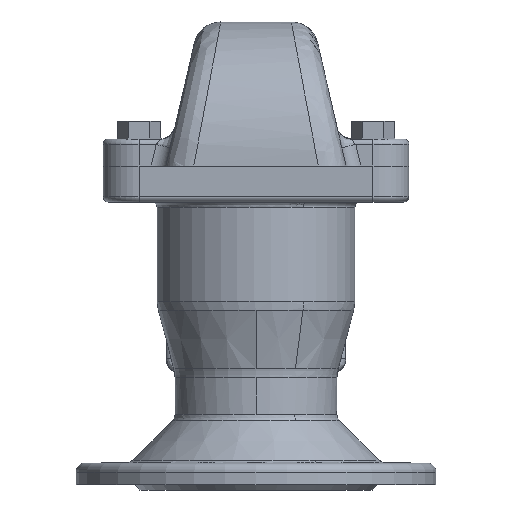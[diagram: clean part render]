
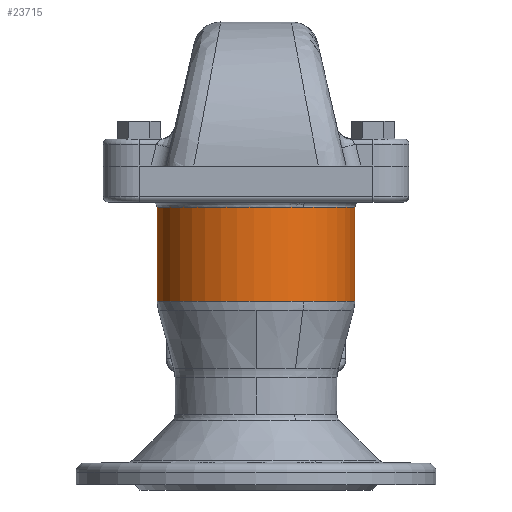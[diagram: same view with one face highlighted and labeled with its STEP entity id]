
A CAD part, front view. The second image highlights one B-rep face of the part: STEP entity #23715.
In plain terms, the highlighted cylindrical face has radius 55 mm (diameter 110 mm), a partial arc.
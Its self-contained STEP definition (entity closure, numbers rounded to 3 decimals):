
#287 = CARTESIAN_POINT ( 'NONE',  ( 0., 0., 157. ) ) ;
#398 = EDGE_CURVE ( 'NONE', #20257, #24072, #30049, .T. ) ;
#588 = EDGE_CURVE ( 'NONE', #15852, #20257, #28540, .T. ) ;
#2642 = DIRECTION ( 'NONE',  ( 1., 0., 0. ) ) ;
#3359 = EDGE_CURVE ( 'NONE', #24072, #25827, #22617, .T. ) ;
#4295 = ORIENTED_EDGE ( 'NONE', *, *, #3359, .T. ) ;
#5228 = AXIS2_PLACEMENT_3D ( 'NONE', #20094, #6010, #22453 ) ;
#6010 = DIRECTION ( 'NONE',  ( 0., 0., 1. ) ) ;
#6150 = EDGE_CURVE ( 'NONE', #15340, #15162, #13970, .T. ) ;
#6205 = ORIENTED_EDGE ( 'NONE', *, *, #588, .T. ) ;
#6275 = CARTESIAN_POINT ( 'NONE',  ( 26.368, -48.267, 104.954 ) ) ;
#6332 = EDGE_CURVE ( 'NONE', #15162, #25827, #25023, .T. ) ;
#6626 = EDGE_CURVE ( 'NONE', #15852, #15340, #15821, .T. ) ;
#6634 = ORIENTED_EDGE ( 'NONE', *, *, #398, .T. ) ;
#7468 = CARTESIAN_POINT ( 'NONE',  ( -55., 0., 104.954 ) ) ;
#7634 = AXIS2_PLACEMENT_3D ( 'NONE', #23474, #11763, #16406 ) ;
#9214 = DIRECTION ( 'NONE',  ( 0., 0., 1. ) ) ;
#9427 = AXIS2_PLACEMENT_3D ( 'NONE', #11574, #9214, #9434 ) ;
#9434 = DIRECTION ( 'NONE',  ( 1., 0., 0. ) ) ;
#9987 = DIRECTION ( 'NONE',  ( 1., 0., 0. ) ) ;
#10916 = CARTESIAN_POINT ( 'NONE',  ( -55., 0., 157. ) ) ;
#11301 = ORIENTED_EDGE ( 'NONE', *, *, #6332, .F. ) ;
#11377 = DIRECTION ( 'NONE',  ( 0., 0., 1. ) ) ;
#11574 = CARTESIAN_POINT ( 'NONE',  ( 0., 0., 104.954 ) ) ;
#11748 = DIRECTION ( 'NONE',  ( 0., 0., 1. ) ) ;
#11763 = DIRECTION ( 'NONE',  ( 0., 0., 1. ) ) ;
#12333 = DIRECTION ( 'NONE',  ( 0., 0., 1. ) ) ;
#13970 = CIRCLE ( 'NONE', #23187, 55. ) ;
#15162 = VERTEX_POINT ( 'NONE', #26730 ) ;
#15340 = VERTEX_POINT ( 'NONE', #10916 ) ;
#15821 = LINE ( 'NONE', #25464, #27583 ) ;
#15840 = CARTESIAN_POINT ( 'NONE',  ( 55., 0., 157. ) ) ;
#15852 = VERTEX_POINT ( 'NONE', #7468 ) ;
#16026 = CARTESIAN_POINT ( 'NONE',  ( 55., 0., 104.954 ) ) ;
#16191 = EDGE_LOOP ( 'NONE', ( #25333, #6205, #6634, #4295, #11301, #22154 ) ) ;
#16368 = VECTOR ( 'NONE', #11748, 1000. ) ;
#16406 = DIRECTION ( 'NONE',  ( 1., 0., 0. ) ) ;
#16704 = DIRECTION ( 'NONE',  ( 0., 0., 1. ) ) ;
#17311 = AXIS2_PLACEMENT_3D ( 'NONE', #22309, #12333, #9987 ) ;
#20094 = CARTESIAN_POINT ( 'NONE',  ( 0., 0., 157. ) ) ;
#20257 = VERTEX_POINT ( 'NONE', #6275 ) ;
#22154 = ORIENTED_EDGE ( 'NONE', *, *, #6150, .F. ) ;
#22309 = CARTESIAN_POINT ( 'NONE',  ( 0., 0., 104.954 ) ) ;
#22453 = DIRECTION ( 'NONE',  ( 1., 0., 0. ) ) ;
#22617 = LINE ( 'NONE', #16026, #16368 ) ;
#23187 = AXIS2_PLACEMENT_3D ( 'NONE', #287, #16704, #2642 ) ;
#23474 = CARTESIAN_POINT ( 'NONE',  ( 0., 0., 104.954 ) ) ;
#23715 = ADVANCED_FACE ( 'NONE', ( #28091 ), #27368, .T. ) ;
#24072 = VERTEX_POINT ( 'NONE', #24378 ) ;
#24378 = CARTESIAN_POINT ( 'NONE',  ( 55., 0., 104.954 ) ) ;
#25023 = CIRCLE ( 'NONE', #5228, 55. ) ;
#25333 = ORIENTED_EDGE ( 'NONE', *, *, #6626, .F. ) ;
#25464 = CARTESIAN_POINT ( 'NONE',  ( -55., 0., 104.954 ) ) ;
#25827 = VERTEX_POINT ( 'NONE', #15840 ) ;
#26730 = CARTESIAN_POINT ( 'NONE',  ( 26.368, -48.267, 157. ) ) ;
#27368 = CYLINDRICAL_SURFACE ( 'NONE', #7634, 55. ) ;
#27583 = VECTOR ( 'NONE', #11377, 1000. ) ;
#28091 = FACE_OUTER_BOUND ( 'NONE', #16191, .T. ) ;
#28540 = CIRCLE ( 'NONE', #17311, 55. ) ;
#30049 = CIRCLE ( 'NONE', #9427, 55. ) ;
